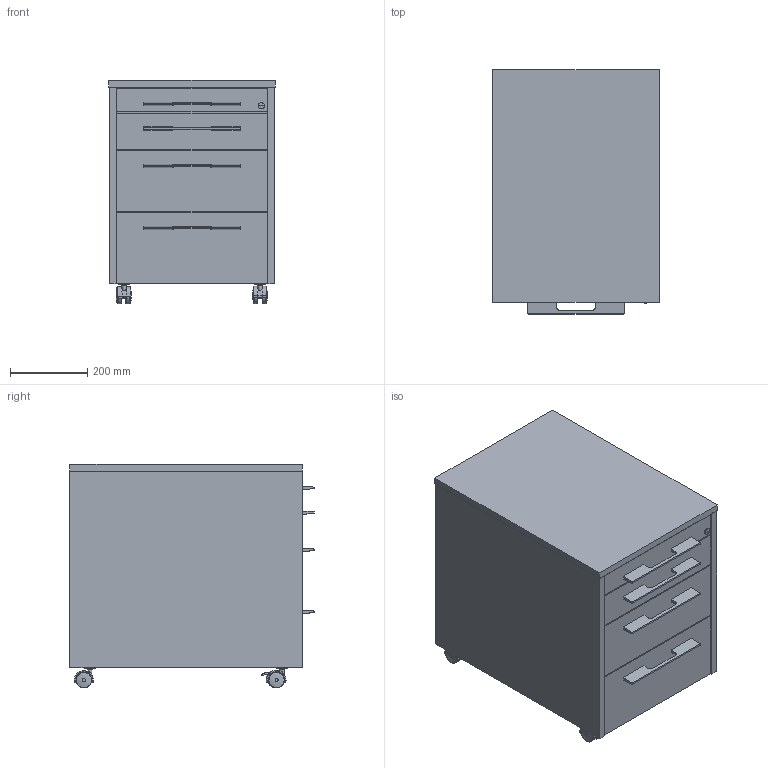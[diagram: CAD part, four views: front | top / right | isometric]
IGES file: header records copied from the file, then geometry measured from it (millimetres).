
Start section: SolidWorks IGES file using analytic representation for surfaces
Global section: file name: C:\Documents and Settings\mbiesiadecki\Moje dokumenty\MEBLE\SYSTEMY BIUROWE\6 VANCOUVER\VANCOUVER - Piktogramy\Vri-pikt-NT\Vr-KT05-t01.IGS; native system: SolidWorks 2011; preprocessor: SolidWorks 2011; author: mbiesiadecki; date: 110926.061356; units: millimetre
Bounding box: 430 x 630.1 x 576.98 mm (x, y, z)
Volume: 26802786.2 mm3; surface area: 3173106.5 mm2
Topology: 4 solids, 4 shells, 388 faces, 982 edges, 647 vertices
Faces by surface type: revolution 183, plane 171, bspline 34
